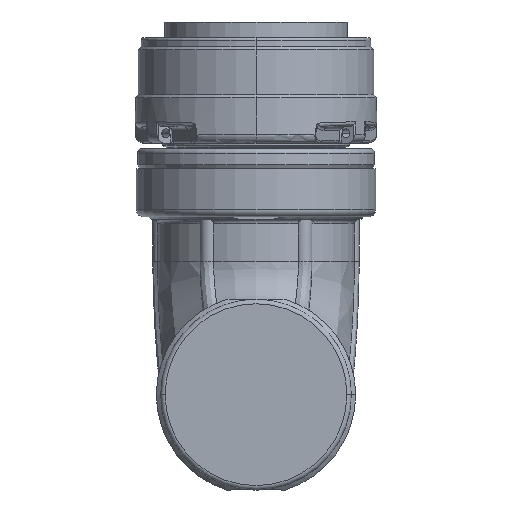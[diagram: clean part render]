
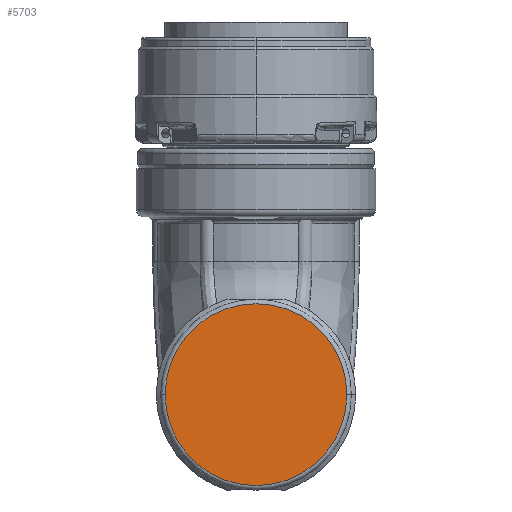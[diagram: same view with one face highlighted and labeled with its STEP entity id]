
A CAD part, front view. The second image highlights one B-rep face of the part: STEP entity #5703.
In plain terms, the highlighted planar face has unit normal (0, -1, 0).
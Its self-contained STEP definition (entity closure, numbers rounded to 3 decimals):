
#512 = AXIS2_PLACEMENT_3D ( 'NONE', #1833, #556, #3201 ) ;
#556 = DIRECTION ( 'NONE',  ( 0., 1., 0. ) ) ;
#1057 = CARTESIAN_POINT ( 'NONE',  ( 0., -35.05, -43.37 ) ) ;
#1078 = DIRECTION ( 'NONE',  ( 1., 0., 0. ) ) ;
#1833 = CARTESIAN_POINT ( 'NONE',  ( 0., -35.05, -43.37 ) ) ;
#1862 = CARTESIAN_POINT ( 'NONE',  ( 16.45, -35.05, -43.37 ) ) ;
#3140 = ORIENTED_EDGE ( 'NONE', *, *, #9891, .T. ) ;
#3201 = DIRECTION ( 'NONE',  ( 1., 0., 0. ) ) ;
#3240 = VERTEX_POINT ( 'NONE', #19352 ) ;
#5703 = ADVANCED_FACE ( 'NONE', ( #13969 ), #16897, .F. ) ;
#6482 = AXIS2_PLACEMENT_3D ( 'NONE', #14207, #12927, #1078 ) ;
#6808 = AXIS2_PLACEMENT_3D ( 'NONE', #1057, #15940, #19137 ) ;
#8246 = EDGE_CURVE ( 'NONE', #3240, #16841, #14904, .T. ) ;
#9891 = EDGE_CURVE ( 'NONE', #16841, #3240, #10863, .T. ) ;
#10863 = CIRCLE ( 'NONE', #6808, 16.45 ) ;
#12927 = DIRECTION ( 'NONE',  ( 0., -1., 0. ) ) ;
#13969 = FACE_OUTER_BOUND ( 'NONE', #18998, .T. ) ;
#14207 = CARTESIAN_POINT ( 'NONE',  ( 0., -35.05, -43.37 ) ) ;
#14904 = CIRCLE ( 'NONE', #6482, 16.45 ) ;
#15313 = ORIENTED_EDGE ( 'NONE', *, *, #8246, .T. ) ;
#15940 = DIRECTION ( 'NONE',  ( 0., -1., 0. ) ) ;
#16841 = VERTEX_POINT ( 'NONE', #1862 ) ;
#16897 = PLANE ( 'NONE',  #512 ) ;
#18998 = EDGE_LOOP ( 'NONE', ( #3140, #15313 ) ) ;
#19137 = DIRECTION ( 'NONE',  ( 1., 0., 0. ) ) ;
#19352 = CARTESIAN_POINT ( 'NONE',  ( -16.45, -35.05, -43.37 ) ) ;
